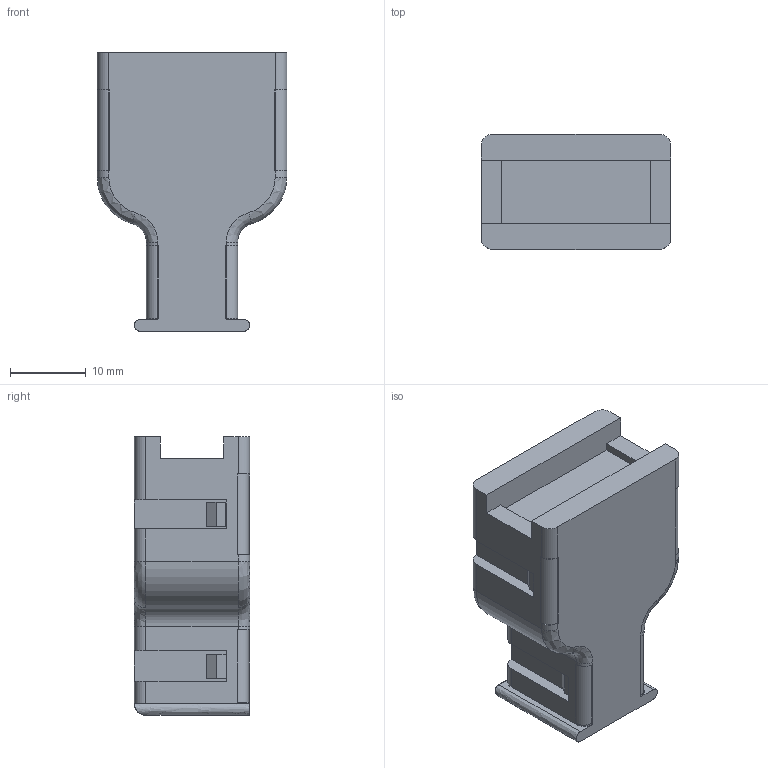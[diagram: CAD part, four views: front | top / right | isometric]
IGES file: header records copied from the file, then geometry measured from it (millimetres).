
Start section:  PTC IGES file: c-2-552079-1-g-3d.igs
Global section: file name: c-2-552079-1-g-3d.igs; native system: Creo Parametric by PTC Inc.; preprocessor: 2015200; author: workeradm; organization: Unknown; units: millimetre
Bounding box: 25.04 x 15.24 x 36.83 mm (x, y, z)
Surface area: 3567.5 mm2 (no closed solid volume)
Topology: 0 solids, 0 shells, 108 faces, 582 edges, 582 vertices
Faces by surface type: bspline 71, revolution 37
